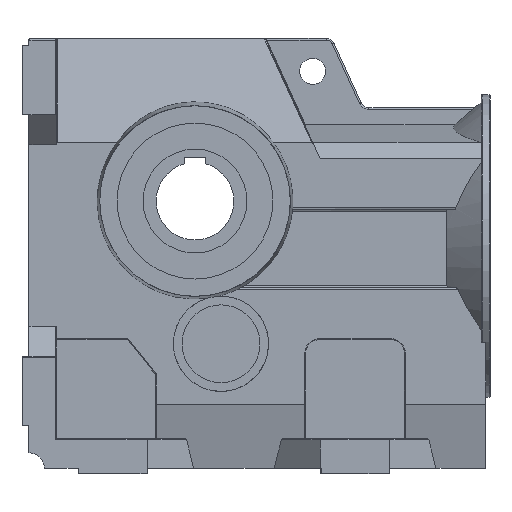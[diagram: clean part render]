
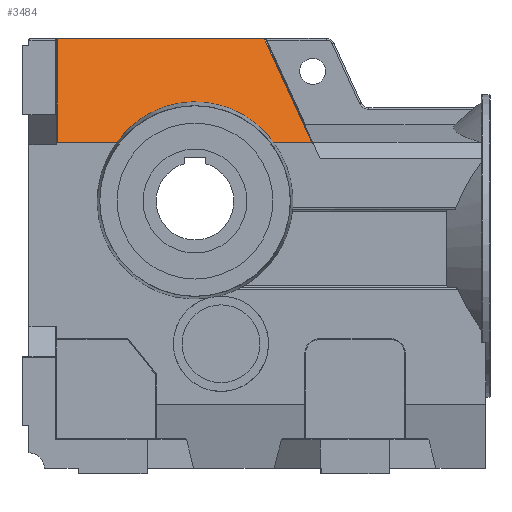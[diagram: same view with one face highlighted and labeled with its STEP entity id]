
A CAD part, front view. The second image highlights one B-rep face of the part: STEP entity #3484.
In plain terms, the highlighted planar face has unit normal (0, -0.936, 0.351).
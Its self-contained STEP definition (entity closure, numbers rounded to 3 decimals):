
#2456=CARTESIAN_POINT('',(67.061,-135.0,383.));
#2457=VERTEX_POINT('',#2456);
#2465=CARTESIAN_POINT('',(22.486,-135.0,383.));
#2466=VERTEX_POINT('',#2465);
#2467=CARTESIAN_POINT('',(22.486,-135.0,383.));
#2468=DIRECTION('',(1.0,0.0,0.0));
#2469=VECTOR('',#2468,44.575);
#2470=LINE('',#2467,#2469);
#2471=EDGE_CURVE('',#2466,#2457,#2470,.T.);
#3258=CARTESIAN_POINT('',(-227.,-90.507,501.649));
#3259=VERTEX_POINT('',#3258);
#3277=CARTESIAN_POINT('',(-227.,-135.0,383.));
#3278=VERTEX_POINT('',#3277);
#3286=CARTESIAN_POINT('',(-227.,-135.0,383.));
#3287=DIRECTION('',(0.0,0.351,0.936));
#3288=VECTOR('',#3287,126.717);
#3289=LINE('',#3286,#3288);
#3290=EDGE_CURVE('',#3278,#3259,#3289,.T.);
#3328=CARTESIAN_POINT('',(-227.127,-90.243,502.351));
#3329=VERTEX_POINT('',#3328);
#3347=CARTESIAN_POINT('',(-229.,-90.507,501.649));
#3348=DIRECTION('',(0.,-0.936,0.351));
#3349=DIRECTION('',(0.,0.351,0.936));
#3350=AXIS2_PLACEMENT_3D('',#3347,#3348,#3349);
#3351=ELLIPSE('',#3350,2.136,2.);
#3352=EDGE_CURVE('',#3259,#3329,#3351,.T.);
#3426=CARTESIAN_POINT('',(12.358,-90.243,502.351));
#3427=VERTEX_POINT('',#3426);
#3428=CARTESIAN_POINT('',(-227.127,-90.243,502.351));
#3429=DIRECTION('',(1.0,0.0,0.0));
#3430=VECTOR('',#3429,239.486);
#3431=LINE('',#3428,#3430);
#3432=EDGE_CURVE('',#3329,#3427,#3431,.T.);
#3452=CARTESIAN_POINT('',(10.,-112.5,443.));
#3453=DIRECTION('',(0.0,-0.936,0.351));
#3454=DIRECTION('',(0.0,-0.351,-0.936));
#3455=AXIS2_PLACEMENT_3D('',#3452,#3453,#3454);
#3456=PLANE('',#3455);
#3457=ORIENTED_EDGE('',*,*,#3352,.F.);
#3458=ORIENTED_EDGE('',*,*,#3290,.F.);
#3459=CARTESIAN_POINT('',(-158.486,-135.0,383.));
#3460=VERTEX_POINT('',#3459);
#3461=CARTESIAN_POINT('',(-227.,-135.0,383.));
#3462=DIRECTION('',(1.0,0.0,0.0));
#3463=VECTOR('',#3462,68.514);
#3464=LINE('',#3461,#3463);
#3465=EDGE_CURVE('',#3278,#3460,#3464,.T.);
#3466=ORIENTED_EDGE('',*,*,#3465,.T.);
#3467=CARTESIAN_POINT('',(-68.,-159.133,318.644));
#3468=DIRECTION('',(0.,0.936,-0.351));
#3469=DIRECTION('',(0.,-0.351,-0.936));
#3470=AXIS2_PLACEMENT_3D('',#3467,#3468,#3469);
#3471=ELLIPSE('',#3470,118.631,111.018);
#3472=EDGE_CURVE('',#3460,#2466,#3471,.T.);
#3473=ORIENTED_EDGE('',*,*,#3472,.T.);
#3474=ORIENTED_EDGE('',*,*,#2471,.T.);
#3475=CARTESIAN_POINT('',(12.358,-90.243,502.351));
#3476=DIRECTION('',(0.394,-0.323,-0.86));
#3477=VECTOR('',#3476,138.709);
#3478=LINE('',#3475,#3477);
#3479=EDGE_CURVE('',#3427,#2457,#3478,.T.);
#3480=ORIENTED_EDGE('',*,*,#3479,.F.);
#3481=ORIENTED_EDGE('',*,*,#3432,.F.);
#3482=EDGE_LOOP('',(#3457,#3458,#3466,#3473,#3474,#3480,#3481));
#3483=FACE_OUTER_BOUND('',#3482,.T.);
#3484=ADVANCED_FACE('',(#3483),#3456,.T.);
